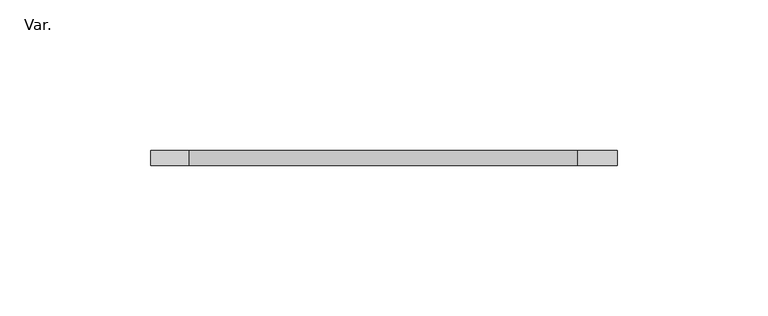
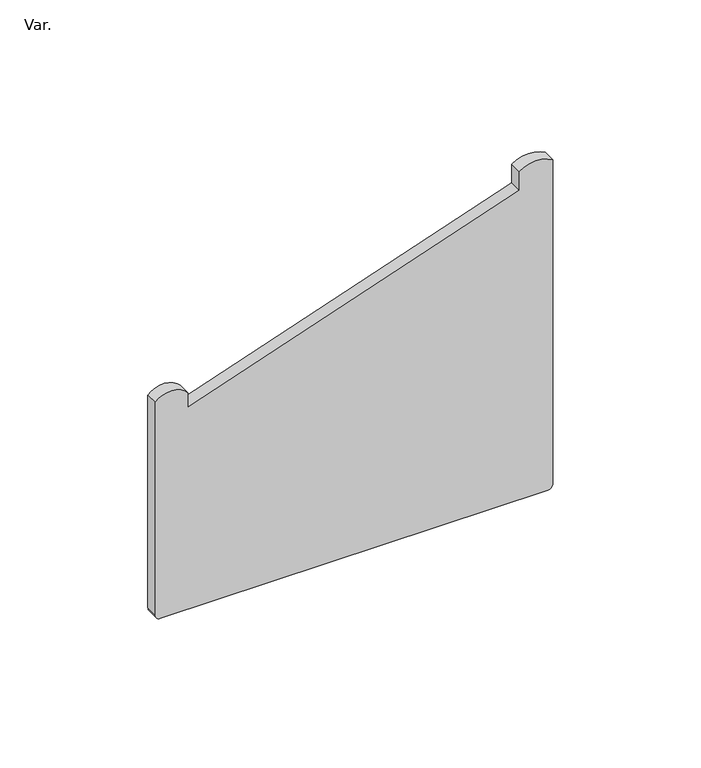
"""IFC4 building model written with IfcOpenShell, lengths in millimetres: pipe fitting geometry, AmancoWavin_Unionesdetubería_CanalesyBajantesZ_NoUsarTapaAltoCaudal : Var.."""

from ifc_helpers import new_model, si_unit, point, frame, frame_2d, origin, place, context, project, spatial, polyline, circle_curve, trimmed, segment, composite_curve, outline, extrude, source, transform, mapped, element, save


def var_15d4b43d(model_context):
    return source(origin(), model_context, "Body", "SweptSolid", [
        extrude(outline(composite_curve([segment(polyline([(1.9918975, 77.6), (135.6544602, 77.6)]), True, "CONTINUOUS"), segment(trimmed(circle_curve(frame_2d((125.6227155, 71.2412277)), 11.8772845), [point((135.6544602, 77.6))], [point((135.3587221, 64.4382825))], False, "CARTESIAN"), True, "CONTINUOUS"), segment(polyline([(135.3587221, 64.4382825), (127.65, 64.4382825), (83.41, -64.838973), (89.4094211, -64.838973)]), True, "CONTINUOUS"), segment(trimmed(circle_curve(frame_2d((83.8096458, -71.3665001)), 8.6003542), [point((89.4094211, -64.838973))], [point((89.861881, -77.4768635))], False, "CARTESIAN"), True, "CONTINUOUS"), segment(polyline([(89.861881, -77.4768635), (2.0129402, -77.4768635)]), True, "CONTINUOUS"), segment(trimmed(circle_curve(frame_2d((2.0129402, -75.534248)), 1.9426156), [point((2.0129402, -77.4768635))], [point((0.0703246, -75.534248))], False, "CARTESIAN"), True, "CONTINUOUS"), segment(polyline([(0.0703246, -75.534248), (0.0703246, 75.678427)]), True, "CONTINUOUS"), segment(trimmed(circle_curve(frame_2d((1.9918975, 75.678427)), 1.921573), [point((0.0703246, 75.678427))], [point((1.9918975, 77.6))], False, "CARTESIAN"), True, "CONTINUOUS")], self_intersect=False)), frame((0.0, 0.0, 0.0), z_axis=(0.0, 1.0, 0.0), x_axis=(0.0, 0.0, 1.0)), (0.0, 0.0, 1.0), 5.0),
    ])


if __name__ == "__main__":
    model = new_model("IFC4")
    model_context = context("Model", 3, world=origin())
    ifc_project = project(units=[si_unit("LENGTHUNIT", "METRE", prefix="MILLI")], contexts=[model_context])
    site = spatial("IfcSite", under=ifc_project)
    building = spatial("IfcBuilding", under=site)
    placement = place(None, origin())
    var_shape = var_15d4b43d(model_context)
    element("IfcPipeFitting", 1, ObjectType="AmancoWavin_Unionesdetubería_CanalesyBajantesZ_NoUsarTapaAltoCaudal : Var.", at=placement, inside=building, context=model_context, shape_type="MappedRepresentation", body=[
        mapped(var_shape, transform((0.0, 0.0, 0.0), x_axis=(1.0, 0.0, 0.0), y_axis=(0.0, 1.0, 0.0), z_axis=(0.0, 0.0, 1.0))),
    ])
    save(model, "model.ifc")
